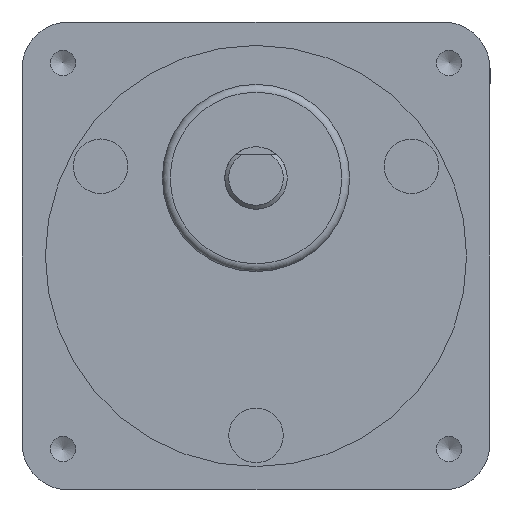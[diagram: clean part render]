
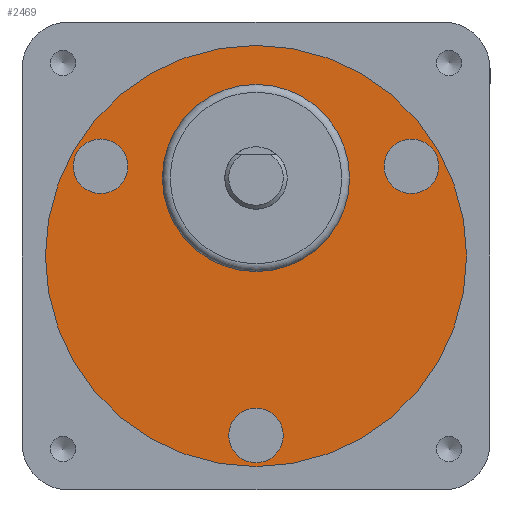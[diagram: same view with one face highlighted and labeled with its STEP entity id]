
A CAD part, front view. The second image highlights one B-rep face of the part: STEP entity #2469.
In plain terms, the highlighted planar face has unit normal (0, -1, 0).
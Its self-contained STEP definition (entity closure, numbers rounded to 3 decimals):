
#108=FACE_BOUND('',#442,.T.);
#109=FACE_BOUND('',#443,.T.);
#110=FACE_BOUND('',#444,.T.);
#111=FACE_BOUND('',#445,.T.);
#169=PLANE('',#2770);
#273=FACE_OUTER_BOUND('',#441,.T.);
#441=EDGE_LOOP('',(#1866));
#442=EDGE_LOOP('',(#1867));
#443=EDGE_LOOP('',(#1868));
#444=EDGE_LOOP('',(#1869));
#445=EDGE_LOOP('',(#1870));
#947=CIRCLE('',#2674,3.5);
#949=CIRCLE('',#2678,3.5);
#951=CIRCLE('',#2682,3.5);
#1000=CIRCLE('',#2769,27.);
#1001=CIRCLE('',#2771,12.);
#1108=VERTEX_POINT('',#3814);
#1110=VERTEX_POINT('',#3821);
#1112=VERTEX_POINT('',#3828);
#1173=VERTEX_POINT('',#4126);
#1174=VERTEX_POINT('',#4130);
#1338=EDGE_CURVE('',#1108,#1108,#947,.T.);
#1341=EDGE_CURVE('',#1110,#1110,#949,.T.);
#1344=EDGE_CURVE('',#1112,#1112,#951,.T.);
#1436=EDGE_CURVE('',#1173,#1173,#1000,.T.);
#1437=EDGE_CURVE('',#1174,#1174,#1001,.T.);
#1866=ORIENTED_EDGE('',*,*,#1436,.T.);
#1867=ORIENTED_EDGE('',*,*,#1338,.T.);
#1868=ORIENTED_EDGE('',*,*,#1341,.T.);
#1869=ORIENTED_EDGE('',*,*,#1344,.T.);
#1870=ORIENTED_EDGE('',*,*,#1437,.F.);
#2469=ADVANCED_FACE('',(#273,#108,#109,#110,#111),#169,.F.);
#2674=AXIS2_PLACEMENT_3D('',#3815,#2997,#2998);
#2678=AXIS2_PLACEMENT_3D('',#3822,#3006,#3007);
#2682=AXIS2_PLACEMENT_3D('',#3829,#3015,#3016);
#2769=AXIS2_PLACEMENT_3D('',#4128,#3232,#3233);
#2770=AXIS2_PLACEMENT_3D('',#4129,#3234,#3235);
#2771=AXIS2_PLACEMENT_3D('',#4131,#3236,#3237);
#2997=DIRECTION('center_axis',(0.,1.,0.));
#2998=DIRECTION('ref_axis',(0.5,0.,-0.866));
#3006=DIRECTION('center_axis',(0.,1.,0.));
#3007=DIRECTION('ref_axis',(0.5,0.,0.866));
#3015=DIRECTION('center_axis',(0.,1.,0.));
#3016=DIRECTION('ref_axis',(-1.,0.,0.));
#3232=DIRECTION('center_axis',(0.,-1.,0.));
#3233=DIRECTION('ref_axis',(-1.,0.,0.));
#3234=DIRECTION('center_axis',(0.,1.,0.));
#3235=DIRECTION('ref_axis',(0.,0.,1.));
#3236=DIRECTION('center_axis',(0.,-1.,0.));
#3237=DIRECTION('ref_axis',(-1.,0.,0.));
#3814=CARTESIAN_POINT('',(18.169,0.5,14.531));
#3815=CARTESIAN_POINT('Origin',(19.919,0.5,11.5));
#3821=CARTESIAN_POINT('',(-21.669,0.5,8.469));
#3822=CARTESIAN_POINT('Origin',(-19.919,0.5,11.5));
#3828=CARTESIAN_POINT('',(3.5,0.5,-23.));
#3829=CARTESIAN_POINT('Origin',(0.,0.5,-23.));
#4126=CARTESIAN_POINT('',(27.,0.5,0.));
#4128=CARTESIAN_POINT('Origin',(0.,0.5,0.));
#4129=CARTESIAN_POINT('Origin',(0.,0.5,0.));
#4130=CARTESIAN_POINT('',(12.,0.5,10.));
#4131=CARTESIAN_POINT('Origin',(0.,0.5,10.));
